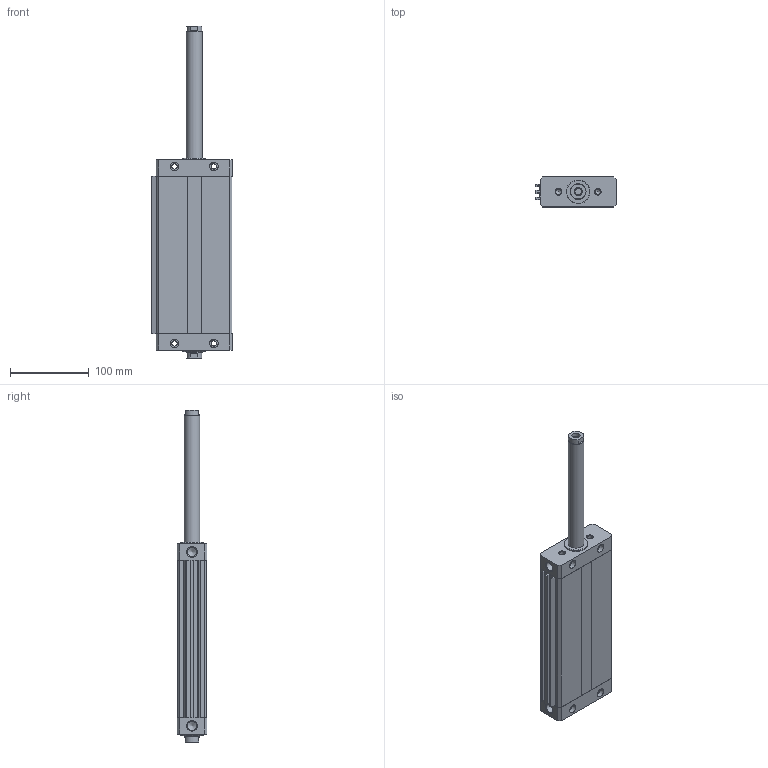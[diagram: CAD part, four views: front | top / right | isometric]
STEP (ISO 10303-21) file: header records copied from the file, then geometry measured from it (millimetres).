
FILE_DESCRIPTION((''),'2;1');
FILE_NAME('I:\Area Tecnica\Disegni\VARIE-3D\Componenti\1370 - CPO\1370_##_0000_03\1370_50_0160_03-01.iam.step','2010-12-16T10:58:56',(''),(''),'Autodesk Inventor 2011','Autodesk Inventor 2011','');
FILE_SCHEMA(('AUTOMOTIVE_DESIGN { 1 0 10303 214 1 1 1 1 }'));
Length unit declared in the file: millimetre
Products named in the file (5): 1370_50_0160_03-01; 1370_05_50_0000; 1370_06_50_0160; 1370_08_50_0000; 1370_3_50_0160
Assembly tree (4 placements, depth 2):
  1370_50_0160_03-01
    1370_05_50_0000
    1370_06_50_0160
    1370_08_50_0000
    1370_3_50_0160
Bounding box: 102.5 x 38 x 422 mm (x, y, z)
Volume: 638715.6 mm3; surface area: 174927.2 mm2
Topology: 4 solids, 4 shells, 164 faces, 398 edges, 252 vertices
Faces by surface type: plane 94, cylinder 50, cone 20
Full cylindrical faces by diameter (mm): 6.8 x18, 8.5 x2, 10.3 x2, 11 x8, 11.75 x2, 20 x4, 30 x2
Entity records: 4722 total; most frequent: DIRECTION 794, CARTESIAN_POINT 737, ORIENTED_EDGE 652, EDGE_CURVE 326, AXIS2_PLACEMENT_3D 295, EDGE_LOOP 254, VERTEX_POINT 238, VECTOR 204
